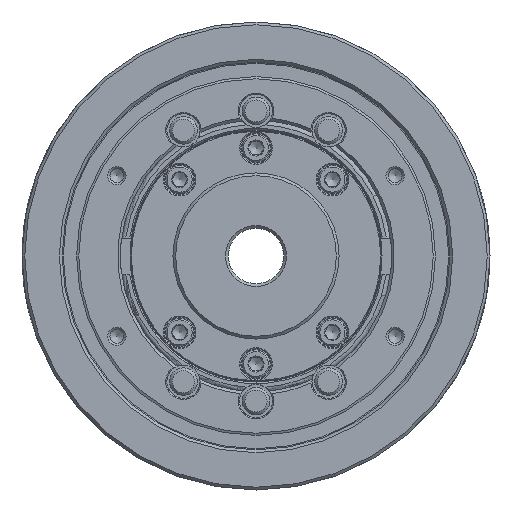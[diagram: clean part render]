
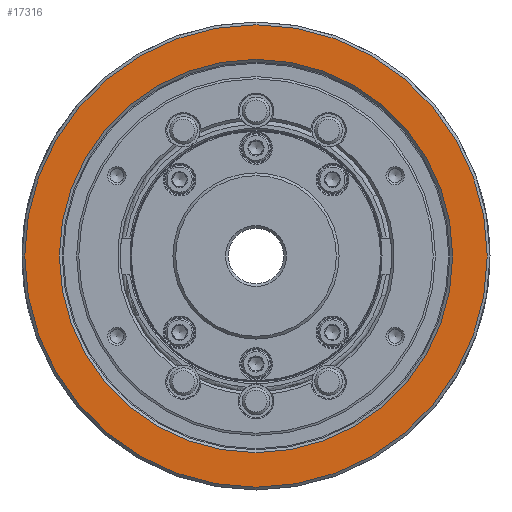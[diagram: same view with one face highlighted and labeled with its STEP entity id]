
A CAD part, left-side view. The second image highlights one B-rep face of the part: STEP entity #17316.
In plain terms, the highlighted planar face has unit normal (-1, 0, 0).
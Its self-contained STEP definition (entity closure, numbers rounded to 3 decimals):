
#108 = PLANE ( 'NONE',  #18443 ) ;
#1242 = FACE_BOUND ( 'NONE', #22337, .T. ) ;
#2925 = EDGE_LOOP ( 'NONE', ( #20931 ) ) ;
#3591 = CARTESIAN_POINT ( 'NONE',  ( -81., 0., 0. ) ) ;
#6523 = CARTESIAN_POINT ( 'NONE',  ( -81., 71., 0. ) ) ;
#7277 = FACE_OUTER_BOUND ( 'NONE', #2925, .T. ) ;
#12503 = CIRCLE ( 'NONE', #45168, 83.5 ) ;
#16872 = ORIENTED_EDGE ( 'NONE', *, *, #28832, .T. ) ;
#17316 = ADVANCED_FACE ( 'NONE', ( #7277, #1242 ), #108, .F. ) ;
#18443 = AXIS2_PLACEMENT_3D ( 'NONE', #6523, #29618, #30367 ) ;
#20931 = ORIENTED_EDGE ( 'NONE', *, *, #68178, .F. ) ;
#21279 = VERTEX_POINT ( 'NONE', #66006 ) ;
#21713 = DIRECTION ( 'NONE',  ( 0., 0., 1. ) ) ;
#21833 = VERTEX_POINT ( 'NONE', #39283 ) ;
#22337 = EDGE_LOOP ( 'NONE', ( #16872 ) ) ;
#28832 = EDGE_CURVE ( 'NONE', #21279, #21279, #37158, .T. ) ;
#29618 = DIRECTION ( 'NONE',  ( 1., 0., 0. ) ) ;
#29876 = AXIS2_PLACEMENT_3D ( 'NONE', #53790, #43180, #70873 ) ;
#30367 = DIRECTION ( 'NONE',  ( 0., 0., 1. ) ) ;
#37158 = CIRCLE ( 'NONE', #29876, 71. ) ;
#39283 = CARTESIAN_POINT ( 'NONE',  ( -81., 0., 83.5 ) ) ;
#43180 = DIRECTION ( 'NONE',  ( 1., 0., 0. ) ) ;
#45168 = AXIS2_PLACEMENT_3D ( 'NONE', #3591, #55056, #21713 ) ;
#53790 = CARTESIAN_POINT ( 'NONE',  ( -81., 0., 0. ) ) ;
#55056 = DIRECTION ( 'NONE',  ( 1., 0., 0. ) ) ;
#66006 = CARTESIAN_POINT ( 'NONE',  ( -81., 0., 71. ) ) ;
#68178 = EDGE_CURVE ( 'NONE', #21833, #21833, #12503, .T. ) ;
#70873 = DIRECTION ( 'NONE',  ( 0., 0., 1. ) ) ;
